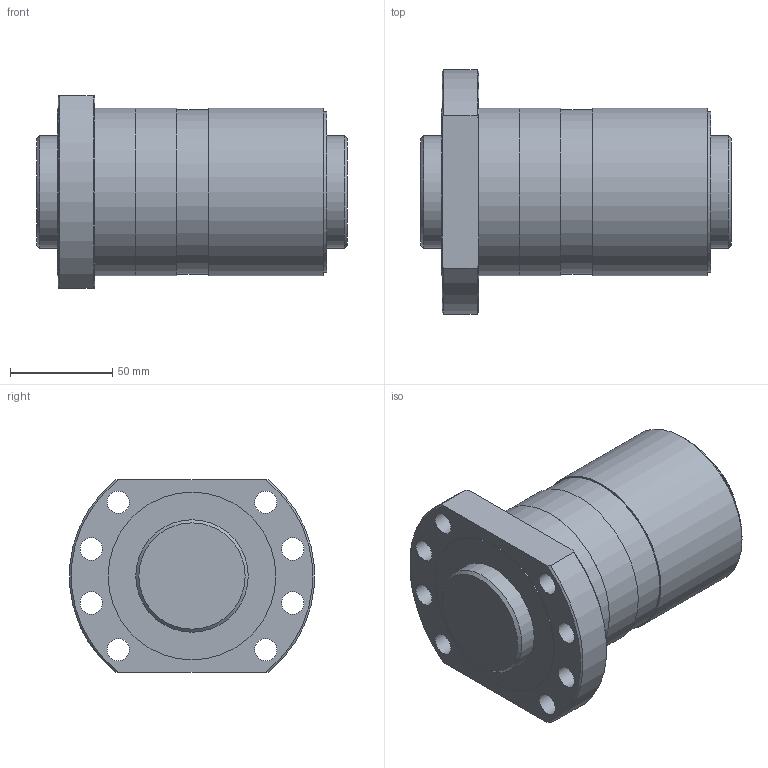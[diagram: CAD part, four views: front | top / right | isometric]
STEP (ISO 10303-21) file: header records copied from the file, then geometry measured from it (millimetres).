
FILE_DESCRIPTION(/* description */ ('STEP AP203'),/* implementation_level */ '2;1');
FILE_NAME(/* name */ 'SDAN5512VAX-4G0+152LC0(0G000)',/* time_stamp */ '2024-07-04T10:21:52+02:00',/* author */ ('License CC BY-ND 4.0'),/* organization */ ('CADENAS'),/* preprocessor_version */ 'ST-DEVELOPER v19.3',/* originating_system */ 'PARTsolutions',/* authorisation */ ' ');
FILE_SCHEMA (('CONFIG_CONTROL_DESIGN'));
Length unit declared in the file: millimetre
Products named in the file (3): SDAN5512VAX-4G0+152LC0(0G000); 0SDAN5512VAX-40Shaft; SDAN5512VAX-4_nut
Assembly tree (2 placements, depth 2):
  SDAN5512VAX-4G0+152LC0(0G000)
    0SDAN5512VAX-40Shaft
    SDAN5512VAX-4_nut
Bounding box: 152 x 119.6 x 94 mm (x, y, z)
Volume: 809828.2 mm3; surface area: 109355.6 mm2
Topology: 2 solids, 2 shells, 41 faces, 95 edges, 65 vertices
Faces by surface type: cylinder 21, plane 13, cone 7
Full cylindrical faces by diameter (mm): 5.2 x1, 6.917 x1, 11 x8, 55 x2, 78.4 x1, 80 x1, 80.36 x1, 82 x4
Entity records: 1143 total; most frequent: CARTESIAN_POINT 208, DIRECTION 188, ORIENTED_EDGE 128, EDGE_LOOP 90, FACE_BOUND 90, AXIS2_PLACEMENT_3D 90, EDGE_CURVE 64, VERTEX_POINT 56
